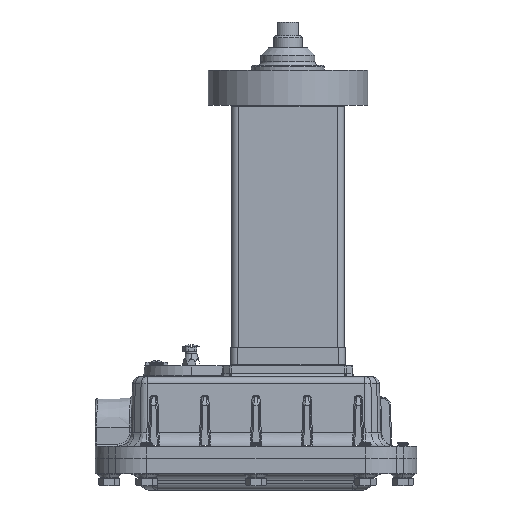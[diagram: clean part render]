
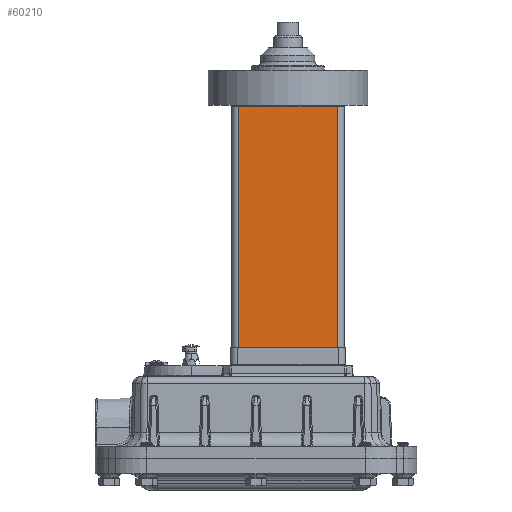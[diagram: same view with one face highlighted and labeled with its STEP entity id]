
A CAD part, left-side view. The second image highlights one B-rep face of the part: STEP entity #60210.
In plain terms, the highlighted planar face has unit normal (-1, 0, 0).
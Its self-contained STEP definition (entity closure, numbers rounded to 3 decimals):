
#918 = EDGE_LOOP ( 'NONE', ( #50791, #71918, #36804, #63044 ) ) ;
#3521 = VERTEX_POINT ( 'NONE', #9776 ) ;
#8710 = PLANE ( 'NONE',  #61304 ) ;
#9776 = CARTESIAN_POINT ( 'NONE',  ( -39.306, -34.307, -84. ) ) ;
#10809 = LINE ( 'NONE', #62355, #49091 ) ;
#11284 = CARTESIAN_POINT ( 'NONE',  ( -39.306, 34.307, -84. ) ) ;
#12767 = CARTESIAN_POINT ( 'NONE',  ( -39.306, 34.307, 84. ) ) ;
#15453 = VERTEX_POINT ( 'NONE', #61807 ) ;
#16183 = DIRECTION ( 'NONE',  ( 0., -1., 0. ) ) ;
#17252 = CARTESIAN_POINT ( 'NONE',  ( -39.306, -34.307, 84. ) ) ;
#21142 = CARTESIAN_POINT ( 'NONE',  ( -39.306, 34.307, -84. ) ) ;
#25113 = FACE_OUTER_BOUND ( 'NONE', #918, .T. ) ;
#25193 = VECTOR ( 'NONE', #58973, 1000. ) ;
#28530 = EDGE_CURVE ( 'NONE', #43831, #3521, #34149, .T. ) ;
#28745 = DIRECTION ( 'NONE',  ( 0., 0., -1. ) ) ;
#32086 = VERTEX_POINT ( 'NONE', #17252 ) ;
#33366 = CARTESIAN_POINT ( 'NONE',  ( -39.306, -34.307, 84. ) ) ;
#34098 = DIRECTION ( 'NONE',  ( 0., 0., -1. ) ) ;
#34149 = LINE ( 'NONE', #21142, #55340 ) ;
#35690 = LINE ( 'NONE', #12767, #25193 ) ;
#36358 = EDGE_CURVE ( 'NONE', #15453, #43831, #10809, .T. ) ;
#36804 = ORIENTED_EDGE ( 'NONE', *, *, #48799, .F. ) ;
#42740 = DIRECTION ( 'NONE',  ( 0., 1., 0. ) ) ;
#43831 = VERTEX_POINT ( 'NONE', #11284 ) ;
#48799 = EDGE_CURVE ( 'NONE', #15453, #32086, #35690, .T. ) ;
#49091 = VECTOR ( 'NONE', #34098, 1000. ) ;
#49602 = CARTESIAN_POINT ( 'NONE',  ( -39.306, 34.307, 84. ) ) ;
#50791 = ORIENTED_EDGE ( 'NONE', *, *, #28530, .T. ) ;
#54167 = DIRECTION ( 'NONE',  ( 1., 0., 0. ) ) ;
#55340 = VECTOR ( 'NONE', #16183, 1000. ) ;
#58153 = LINE ( 'NONE', #33366, #59364 ) ;
#58973 = DIRECTION ( 'NONE',  ( 0., -1., 0. ) ) ;
#59364 = VECTOR ( 'NONE', #28745, 1000. ) ;
#60210 = ADVANCED_FACE ( 'NONE', ( #25113 ), #8710, .F. ) ;
#61304 = AXIS2_PLACEMENT_3D ( 'NONE', #49602, #54167, #42740 ) ;
#61807 = CARTESIAN_POINT ( 'NONE',  ( -39.306, 34.307, 84. ) ) ;
#62355 = CARTESIAN_POINT ( 'NONE',  ( -39.306, 34.307, 84. ) ) ;
#63044 = ORIENTED_EDGE ( 'NONE', *, *, #36358, .T. ) ;
#70851 = EDGE_CURVE ( 'NONE', #32086, #3521, #58153, .T. ) ;
#71918 = ORIENTED_EDGE ( 'NONE', *, *, #70851, .F. ) ;
